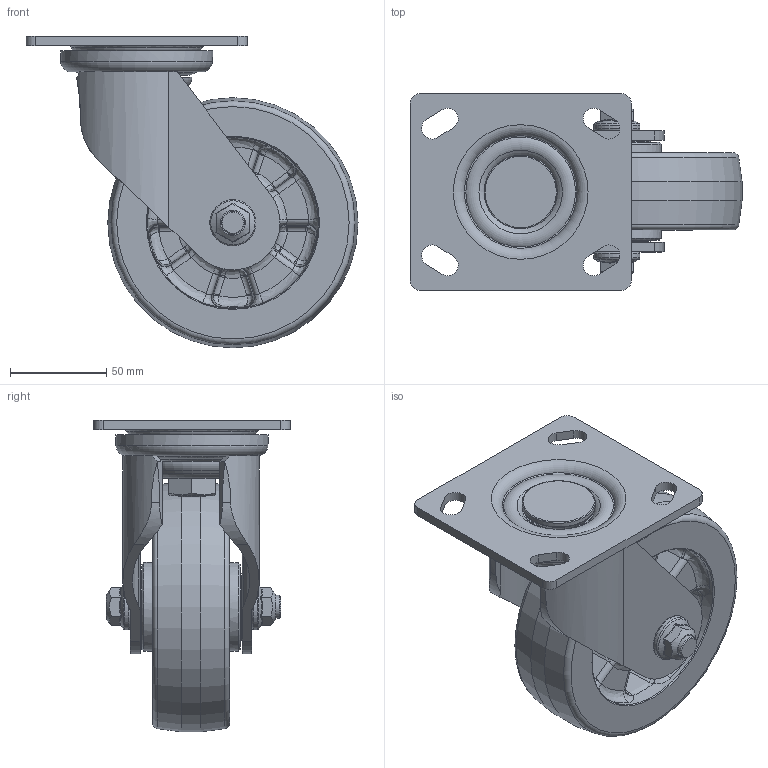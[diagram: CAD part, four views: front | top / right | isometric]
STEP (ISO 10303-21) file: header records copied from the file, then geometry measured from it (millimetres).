
FILE_DESCRIPTION((''),'2;1');
FILE_NAME('C:\Documents and Settings\Administrator\바탕 화면\3D STEP\PM-SERIES\PM-130A-SF\PM-130A-SF.stp','2010-12-27T15:04:54',('Administrator'),(''),'Autodesk Inventor 2009','Autodesk Inventor 2009','');
FILE_SCHEMA(('AUTOMOTIVE_DESIGN { 1 0 10303 214 1 1 1 1 }'));
Length unit declared in the file: millimetre
Products named in the file (1): PM-130A-SF
Bounding box: 172.5 x 102 x 162 mm (x, y, z)
Volume: 441668.2 mm3; surface area: 152073.2 mm2
Topology: 6 solids, 8 shells, 565 faces, 1387 edges, 818 vertices
Faces by surface type: bspline 267, plane 127, cylinder 94, cone 50, torus 27
Full cylindrical faces by diameter (mm): 12 x1, 15 x1, 15.2 x1, 16 x2, 18 x2, 21.5 x1, 24 x2, 30.5 x2, 35 x2, 35.18 x2, 38 x1, 69 x1, 79 x1, 130 x1
Entity records: 32289 total; most frequent: CARTESIAN_POINT 21001, ORIENTED_EDGE 2482, DIRECTION 1960, EDGE_CURVE 1241, AXIS2_PLACEMENT_3D 867, VERTEX_POINT 788, EDGE_LOOP 695, FACE_OUTER_BOUND 563
